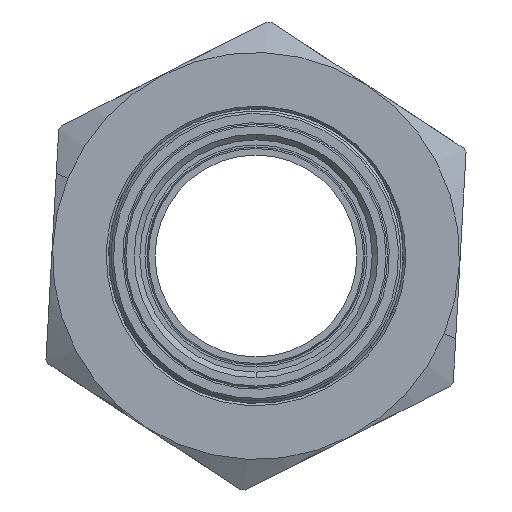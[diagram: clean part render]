
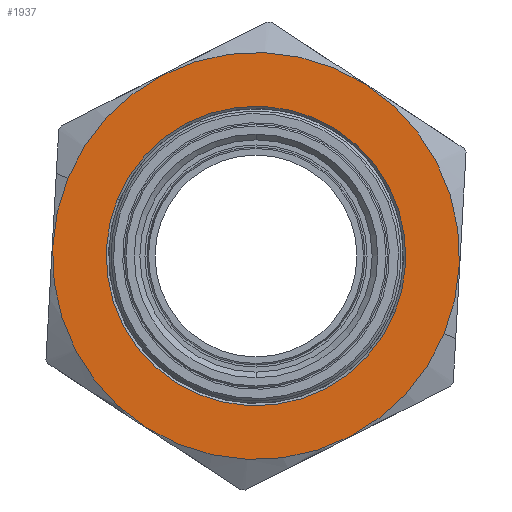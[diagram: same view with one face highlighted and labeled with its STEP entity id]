
A CAD part, left-side view. The second image highlights one B-rep face of the part: STEP entity #1937.
In plain terms, the highlighted planar face has unit normal (-1, 0, 0) as drawn and (1, 0, 0) by its records, which use the part's own axes.
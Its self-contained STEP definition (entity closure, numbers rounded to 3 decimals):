
#318 = CIRCLE ( 'NONE', #4138, 25.2 ) ;
#319 = CIRCLE ( 'NONE', #4137, 18.55 ) ;
#1868 = EDGE_CURVE ( 'NONE', #2931, #2976, #6756, .T. ) ;
#1879 = EDGE_CURVE ( 'NONE', #2946, #2319, #6795, .T. ) ;
#1937 = ADVANCED_FACE ( 'NONE', ( #6882, #6906 ), #9277, .F. ) ;
#2319 = VERTEX_POINT ( 'NONE', #3553 ) ;
#2331 = ORIENTED_EDGE ( 'NONE', *, *, #3867, .F. ) ;
#2343 = ORIENTED_EDGE ( 'NONE', *, *, #1868, .T. ) ;
#2360 = ORIENTED_EDGE ( 'NONE', *, *, #3873, .T. ) ;
#2406 = ORIENTED_EDGE ( 'NONE', *, *, #1879, .F. ) ;
#2535 = EDGE_LOOP ( 'NONE', ( #2406, #2331 ) ) ;
#2576 = EDGE_LOOP ( 'NONE', ( #2343, #2360 ) ) ;
#2931 = VERTEX_POINT ( 'NONE', #3720 ) ;
#2946 = VERTEX_POINT ( 'NONE', #3760 ) ;
#2976 = VERTEX_POINT ( 'NONE', #3794 ) ;
#3553 = CARTESIAN_POINT ( 'NONE',  ( 14.2, 0., -25.2 ) ) ;
#3720 = CARTESIAN_POINT ( 'NONE',  ( 14.2, 0., -18.55 ) ) ;
#3760 = CARTESIAN_POINT ( 'NONE',  ( 14.2, 0., 25.2 ) ) ;
#3794 = CARTESIAN_POINT ( 'NONE',  ( 14.2, 0., 18.55 ) ) ;
#3867 = EDGE_CURVE ( 'NONE', #2319, #2946, #318, .T. ) ;
#3873 = EDGE_CURVE ( 'NONE', #2976, #2931, #319, .T. ) ;
#3938 = AXIS2_PLACEMENT_3D ( 'NONE', #5618, #5650, #5608 ) ;
#3962 = AXIS2_PLACEMENT_3D ( 'NONE', #5594, #5601, #5563 ) ;
#4068 = AXIS2_PLACEMENT_3D ( 'NONE', #9257, #9258, #9263 ) ;
#4137 = AXIS2_PLACEMENT_3D ( 'NONE', #7096, #7097, #7099 ) ;
#4138 = AXIS2_PLACEMENT_3D ( 'NONE', #7107, #7113, #7087 ) ;
#5563 = DIRECTION ( 'NONE',  ( 0., 0., 1. ) ) ;
#5594 = CARTESIAN_POINT ( 'NONE',  ( 14.2, 0., 0. ) ) ;
#5601 = DIRECTION ( 'NONE',  ( -1., 0., 0. ) ) ;
#5608 = DIRECTION ( 'NONE',  ( 0., 0., 1. ) ) ;
#5618 = CARTESIAN_POINT ( 'NONE',  ( 14.2, 0., 0. ) ) ;
#5650 = DIRECTION ( 'NONE',  ( -1., 0., 0. ) ) ;
#6756 = CIRCLE ( 'NONE', #3962, 18.55 ) ;
#6795 = CIRCLE ( 'NONE', #3938, 25.2 ) ;
#6882 = FACE_BOUND ( 'NONE', #2576, .T. ) ;
#6906 = FACE_OUTER_BOUND ( 'NONE', #2535, .T. ) ;
#7087 = DIRECTION ( 'NONE',  ( 0., 0., 1. ) ) ;
#7096 = CARTESIAN_POINT ( 'NONE',  ( 14.2, 0., 0. ) ) ;
#7097 = DIRECTION ( 'NONE',  ( -1., 0., 0. ) ) ;
#7099 = DIRECTION ( 'NONE',  ( 0., 0., 1. ) ) ;
#7107 = CARTESIAN_POINT ( 'NONE',  ( 14.2, 0., 0. ) ) ;
#7113 = DIRECTION ( 'NONE',  ( -1., 0., 0. ) ) ;
#9257 = CARTESIAN_POINT ( 'NONE',  ( 14.2, 18.25, 0. ) ) ;
#9258 = DIRECTION ( 'NONE',  ( -1., 0., 0. ) ) ;
#9263 = DIRECTION ( 'NONE',  ( 0., 0., 1. ) ) ;
#9277 = PLANE ( 'NONE',  #4068 ) ;
